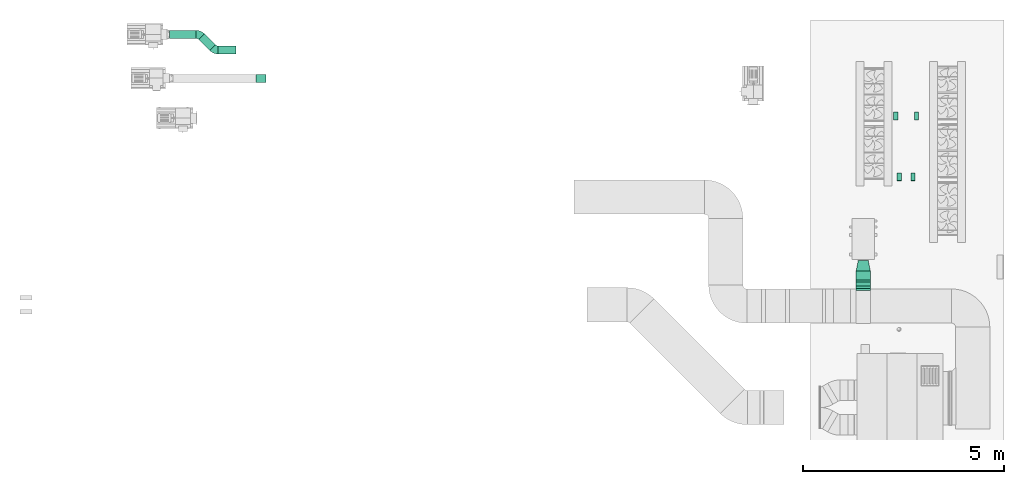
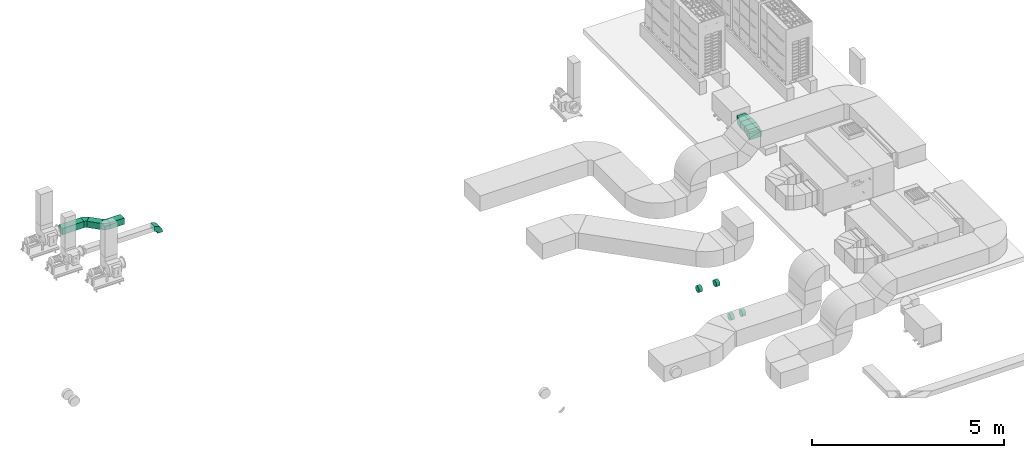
# One storey, part 6 of 10: 10 flow fittings, 5 flow segments.
"""IFC2X3 building model written with IfcOpenShell, lengths in millimetres."""

from ifc_helpers import new_model, entity, si_unit, converted_unit, derived_unit, direction, frame, frame_2d, origin, place, context, subcontext, project, spatial, polyline, circle_curve, parameter, trimmed, segment, composite_curve, rectangle, outline, extrude, faceted_brep, source, transform, mapped, material, type_object, type_shapes, element, save


model = new_model("IFC2X3")

# Units and contexts
model_context = context("Model", 3, precision=0.01, world=origin(), true_north=direction((6.123233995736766e-17, 1.0)))
body_context = subcontext(model_context, "Body", "Model", "MODEL_VIEW")
ifc_project = project(units=[si_unit("LENGTHUNIT", "METRE", prefix="MILLI"), converted_unit("PLANEANGLEUNIT", "DEGREE", entity("IfcPlaneAngleMeasure", 0.017453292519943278), si_unit("PLANEANGLEUNIT", "RADIAN"), dimensions=[0, 0, 0, 0, 0, 0, 0]), si_unit("AREAUNIT", "SQUARE_METRE"), derived_unit("THERMALTRANSMITTANCEUNIT", [(si_unit("MASSUNIT", "GRAM", prefix="KILO"), 1), (si_unit("THERMODYNAMICTEMPERATUREUNIT", "KELVIN"), -1), (si_unit("TIMEUNIT", "SECOND"), -3)])], contexts=[model_context])

# Site, building, storey
site_placement = place(None, origin())
site = spatial("IfcSite", under=ifc_project, at=site_placement, Name="Default", CompositionType="ELEMENT")
building_placement = place(site_placement, origin())
building = spatial("IfcBuilding", under=site, at=building_placement, Name="Praça Pedro II, 1301 - Centro (Sul), Teresina - PI, 64001-100", CompositionType="ELEMENT")
storey_placement = place(building_placement, frame((0.0, 0.0, 9040.0)))
storey = spatial("IfcBuildingStorey", under=building, at=storey_placement, Name="LAJE TÉCNICA", CompositionType="ELEMENT", Elevation=9040.0)

# Flow segments
duct_segment_type = type_object("IfcDuctSegmentType", Name="Duto retangular:Raios cotovelos / torneiras", PredefinedType="NOTDEFINED")
flow_segment_1_placement = place(storey_placement, origin())
element("IfcFlowSegment", 1, at=flow_segment_1_placement, inside=storey, type_object=duct_segment_type, Name="Duto retangular:Raios cotovelos / torneiras", ObjectType="Duto retangular:Raios cotovelos / torneiras", context=body_context, shape_type="SweptSolid", body=[
    extrude(rectangle(XDim=200.0000000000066, YDim=72.91306973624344, at=frame_2d((-5.400124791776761e-13, -9.379164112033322e-13), x_axis=(0.0, 1.0))), frame((36344.0706689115, -57759.1687026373, 1363.976813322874), z_axis=(1.0, 0.0, 0.0), x_axis=(0.0, 0.8660254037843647, 0.5000000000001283)), (0.0, 0.0, 1.0), 349.9999999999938),
])
flow_segment_2_placement = place(storey_placement, origin())
element("IfcFlowSegment", 2, at=flow_segment_2_placement, inside=storey, type_object=duct_segment_type, Name="Duto retangular:Raios cotovelos / torneiras", ObjectType="Duto retangular:Raios cotovelos / torneiras", context=body_context, shape_type="SweptSolid", body=[
    extrude(rectangle(XDim=225.56608795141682, YDim=349.9999999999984, at=frame_2d((0.0, -2.1600499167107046e-12), x_axis=(1.0, 0.0))), frame((36519.070668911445, -57514.813373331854, 1309.0), z_axis=(0.0, 0.0, 1.0), x_axis=(0.0, 1.0, 0.0)), (0.0, 0.0, 1.0), 200.0000000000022),
])
flow_segment_3_placement = place(storey_placement, origin())
element("IfcFlowSegment", 3, at=flow_segment_3_placement, inside=storey, type_object=duct_segment_type, Name="Duto retangular:Raios cotovelos / torneiras", ObjectType="Duto retangular:Raios cotovelos / torneiras", context=body_context, shape_type="SweptSolid", body=[
    extrude(rectangle(XDim=436.6572875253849, YDim=199.99999999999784, at=frame_2d((-2.1600499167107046e-12, -4.334310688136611e-12), x_axis=(1.0, 0.0))), frame((20699.047039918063, -51911.56108325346, 380.0), z_axis=(0.0, 0.0, 1.0), x_axis=(-1.0, 0.0, 0.0)), (0.0, 0.0, 1.0), 200.0),
])
flow_segment_4_placement = place(storey_placement, origin())
element("IfcFlowSegment", 4, at=flow_segment_4_placement, inside=storey, type_object=duct_segment_type, Name="Duto retangular:Raios cotovelos / torneiras", ObjectType="Duto retangular:Raios cotovelos / torneiras", context=body_context, shape_type="SweptSolid", body=[
    extrude(rectangle(XDim=383.02943725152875, YDim=200.0000000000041, at=frame_2d((-3.055333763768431e-12, -3.062439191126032e-12), x_axis=(1.0, 0.0))), frame((20203.875683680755, -51717.561083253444, 380.0), z_axis=(0.0, 0.0, 1.0), x_axis=(-0.7071067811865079, 0.7071067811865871, 0.0)), (0.0, 0.0, 1.0), 200.0),
])
flow_segment_5_placement = place(storey_placement, origin())
element("IfcFlowSegment", 5, at=flow_segment_5_placement, inside=storey, type_object=duct_segment_type, Name="Duto retangular:Raios cotovelos / torneiras", ObjectType="Duto retangular:Raios cotovelos / torneiras", context=body_context, shape_type="SweptSolid", body=[
    extrude(rectangle(XDim=654.1065605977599, YDim=199.99999999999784, at=frame_2d((-1.1084466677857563e-12, 4.334310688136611e-12), x_axis=(1.0, 0.0))), frame((19599.979690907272, -51523.56108325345, 380.0)), (0.0, 0.0, 1.0), 200.0),
])

# Flow fittings
ifc_material = material(Name="<Unnamed>")
duct_fitting_type_1 = type_object("IfcDuctFittingType", Name="BTS vanes:1 Splitter Vanes", PredefinedType="NOTDEFINED", material=ifc_material)
shared_shape_1 = source(origin(), body_context, "Body", "SweptSolid", [
    extrude(outline(composite_curve([segment(polyline([(-113.39745962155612, -50.0), (86.60254037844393, -50.0)]), True, "CONTINUOUS"), segment(trimmed(circle_curve(frame_2d((186.60254037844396, -50.0), x_axis=(-0.8660254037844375, 0.49999999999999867)), 100.00000000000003), [parameter(0.0)], [parameter(29.999999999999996)], True, "PARAMETER"), False, "CONTINUOUS"), segment(polyline([(100.0, 0.0), (-73.20508075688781, 100.0)]), True, "CONTINUOUS"), segment(trimmed(circle_curve(frame_2d((186.60254037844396, -50.0), x_axis=(-0.8660254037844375, 0.49999999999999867)), 300.0), [parameter(0.0)], [parameter(29.999999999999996)], True, "PARAMETER"), True, "CONTINUOUS")], self_intersect=False)), frame((-3.589838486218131, 13.397459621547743, -175.0), z_axis=(0.0, 0.0, 1.0), x_axis=(-0.49999999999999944, 0.866025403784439, 0.0)), (0.0, 0.0, 1.0), 350.0),
    extrude(outline(composite_curve([segment(polyline([(-26.353758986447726, -29.60526315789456), (10.488346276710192, -29.605263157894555)]), True, "CONTINUOUS"), segment(trimmed(circle_curve(frame_2d((110.48834627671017, -29.605263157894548), x_axis=(-0.8660254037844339, 0.5)), 99.99999999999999), [parameter(0.0)], [parameter(29.999999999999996)], True, "PARAMETER"), False, "CONTINUOUS"), segment(polyline([(23.88580589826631, 20.39473684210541), (-8.020393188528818, 38.81578947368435)]), True, "CONTINUOUS"), segment(trimmed(circle_curve(frame_2d((110.48834627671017, -29.605263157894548), x_axis=(-0.8660254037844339, 0.5)), 136.8421052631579), [parameter(0.0)], [parameter(29.999999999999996)], True, "PARAMETER"), True, "CONTINUOUS")], self_intersect=False)), frame((-23.9845753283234, 89.51165372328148, -175.0), z_axis=(0.0, 0.0, 1.0), x_axis=(-0.49999999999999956, 0.8660254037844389, 0.0)), (0.0, 0.0, 1.0), 350.0),
])
type_shapes(duct_fitting_type_1, [shared_shape_1])
for number, where, z_axis, x_axis, name in (
    (6, (36519.0706689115, -57837.151149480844, 1318.9536266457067), (1.0, 0.0, 0.0), (0.0, 1.0, 0.0), "BTS vanes:1 Splitter Vanes"),
    (7, (36519.0706689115, -57681.18625579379, 1409.0), (-1.0, 0.0, 0.0), (0.0, 0.8660254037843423, 0.500000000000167), "BTS vanes:1 Splitter Vanes"),
):
    element("IfcFlowFitting", number, at=place(storey_placement, frame(where, z_axis=z_axis, x_axis=x_axis)), inside=storey, type_object=duct_fitting_type_1, material=ifc_material, Name=name, ObjectType="BTS vanes:1 Splitter Vanes", context=body_context, shape_type="MappedRepresentation", body=[
        mapped(shared_shape_1, transform((0.0, 0.0, 0.0), scale=1.0)),
    ])
duct_fitting_type_2 = type_object("IfcDuctFittingType", Name="M_Rectangular Transition - L:250 mm (L)", PredefinedType="NOTDEFINED", material=ifc_material)
shared_shape_2 = source(origin(), body_context, "Body", "Brep", [
    faceted_brep([(250.0, -125.95000000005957, 125.94999999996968), (250.0, -125.95000000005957, -125.95000000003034), (250.0, 125.94999999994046, -125.95000000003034), (250.0, 125.94999999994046, 125.94999999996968), (0.0, -175.0, 100.0), (0.0, 175.0, 100.0), (0.0, 175.0, -100.0), (0.0, -175.0, -100.0)], [[[0, 1, 2, 3]], [[4, 5, 6, 7]], [[4, 7, 1, 0]], [[7, 6, 2, 1]], [[6, 5, 3, 2]], [[5, 4, 0, 3]]]),
])
type_shapes(duct_fitting_type_2, [shared_shape_2])
flow_fitting_1_placement = place(storey_placement, frame((36519.07066891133, -57402.03032935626, 1409.0), z_axis=(0.0, 0.0, 1.0), x_axis=(0.0, 1.0, 0.0)))
element("IfcFlowFitting", 8, at=flow_fitting_1_placement, inside=storey, type_object=duct_fitting_type_2, material=ifc_material, Name="M_Rectangular Transition - L:250 mm (L)", ObjectType="M_Rectangular Transition - L:250 mm (L)", context=body_context, shape_type="MappedRepresentation", body=[
    mapped(shared_shape_2, transform((0.0, 0.0, 0.0), scale=1.0)),
])
duct_fitting_type_3 = type_object("IfcDuctFittingType", Name="BTS vanes:1 Splitter Vanes", PredefinedType="NOTDEFINED", material=ifc_material)
shared_shape_3 = source(origin(), body_context, "Body", "SweptSolid", [
    extrude(outline(composite_curve([segment(polyline([(-162.49999999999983, -87.49999999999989), (-12.499999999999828, -87.49999999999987)]), True, "CONTINUOUS"), segment(trimmed(circle_curve(frame_2d((87.50000000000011, -87.4999999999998), x_axis=(0.0, 1.0)), 99.99999999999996), [parameter(0.0)], [parameter(89.99999999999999)], True, "PARAMETER"), False, "CONTINUOUS"), segment(polyline([(87.49999999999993, 12.500000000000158), (87.49999999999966, 162.50000000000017)]), True, "CONTINUOUS"), segment(trimmed(circle_curve(frame_2d((87.50000000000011, -87.4999999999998), x_axis=(0.0, 1.0)), 250.00000000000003), [parameter(0.0)], [parameter(89.99999999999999)], True, "PARAMETER"), True, "CONTINUOUS")], self_intersect=False)), frame((-87.49999999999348, 87.4999999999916, -100.0), z_axis=(0.0, 0.0, 1.0), x_axis=(-1.0, 0.0, 0.0)), (0.0, 0.0, 1.0), 200.0),
    extrude(outline(composite_curve([segment(polyline([(-77.63157894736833, -59.21052631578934), (-40.78947368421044, -59.21052631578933)]), True, "CONTINUOUS"), segment(trimmed(circle_curve(frame_2d((59.21052631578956, -59.21052631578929), x_axis=(0.0, 1.0)), 100.0), [parameter(0.0)], [parameter(90.00000000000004)], True, "PARAMETER"), False, "CONTINUOUS"), segment(polyline([(59.21052631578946, 40.789473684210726), (59.210526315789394, 77.63157894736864)]), True, "CONTINUOUS"), segment(trimmed(circle_curve(frame_2d((59.21052631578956, -59.21052631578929), x_axis=(0.0, 1.0)), 136.8421052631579), [parameter(0.0)], [parameter(89.99999999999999)], True, "PARAMETER"), True, "CONTINUOUS")], self_intersect=False)), frame((-115.78947368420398, 115.78947368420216, -100.0), z_axis=(0.0, 0.0, 1.0), x_axis=(-1.0, 0.0, 0.0)), (0.0, 0.0, 1.0), 200.0),
])
type_shapes(duct_fitting_type_3, [shared_shape_3])
flow_fitting_2_placement = place(storey_placement, frame((21590.507671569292, -52617.498864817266, 480.0), z_axis=(0.0, 1.0, 0.0), x_axis=(1.0, 0.0, 0.0)))
element("IfcFlowFitting", 9, at=flow_fitting_2_placement, inside=storey, type_object=duct_fitting_type_3, material=ifc_material, Name="BTS vanes:1 Splitter Vanes", ObjectType="BTS vanes:1 Splitter Vanes", context=body_context, shape_type="MappedRepresentation", body=[
    mapped(shared_shape_3, transform((0.0, 0.0, 0.0), scale=1.0)),
])
duct_fitting_type_4 = type_object("IfcDuctFittingType", Name="BTS vanes:1 Splitter Vanes", PredefinedType="NOTDEFINED", material=ifc_material)
shared_shape_4 = source(origin(), body_context, "Body", "SweptSolid", [
    extrude(outline(composite_curve([segment(polyline([(-129.28932188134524, -70.7106781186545), (70.71067811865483, -70.71067811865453)]), True, "CONTINUOUS"), segment(trimmed(circle_curve(frame_2d((170.7106781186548, -70.71067811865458), x_axis=(-0.7071067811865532, 0.7071067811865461)), 99.99999999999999), [parameter(0.0)], [parameter(44.99999999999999)], True, "PARAMETER"), False, "CONTINUOUS"), segment(polyline([(100.0, 0.0), (-41.42135623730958, 141.42135623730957)]), True, "CONTINUOUS"), segment(trimmed(circle_curve(frame_2d((170.7106781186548, -70.71067811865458), x_axis=(-0.7071067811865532, 0.7071067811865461)), 300.0), [parameter(0.0)], [parameter(44.99999999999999)], True, "PARAMETER"), True, "CONTINUOUS")], self_intersect=False)), frame((-12.132034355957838, 29.289321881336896, -100.0), z_axis=(0.0, 0.0, 1.0), x_axis=(-0.7071067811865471, 0.7071067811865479, 0.0)), (0.0, 0.0, 1.0), 200.0),
    extrude(outline(composite_curve([segment(polyline([(-35.763414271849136, -41.86816467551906), (1.078690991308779, -41.86816467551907)]), True, "CONTINUOUS"), segment(trimmed(circle_curve(frame_2d((101.07869099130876, -41.86816467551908), x_axis=(-0.707106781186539, 0.7071067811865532)), 99.99999999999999), [parameter(0.0)], [parameter(44.99999999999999)], True, "PARAMETER"), False, "CONTINUOUS"), segment(polyline([(30.36801287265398, 28.842513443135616), (4.3167104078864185, 54.89381590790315)]), True, "CONTINUOUS"), segment(trimmed(circle_curve(frame_2d((101.07869099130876, -41.86816467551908), x_axis=(-0.707106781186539, 0.7071067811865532)), 136.84210526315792), [parameter(0.0)], [parameter(44.99999999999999)], True, "PARAMETER"), True, "CONTINUOUS")], self_intersect=False)), frame((-40.97454779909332, 98.92130900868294, -100.0), z_axis=(0.0, 0.0, 1.0), x_axis=(-0.7071067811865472, 0.7071067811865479, 0.0)), (0.0, 0.0, 1.0), 200.0),
])
type_shapes(duct_fitting_type_4, [shared_shape_4])
for number, where, z_axis, x_axis, name in (
    (10, (20397.87568368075, -51911.56108325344, 480.0), (0.0, 0.0, 1.0), (0.7071067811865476, -0.7071067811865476, 0.0), "BTS vanes:1 Splitter Vanes"),
    (11, (20009.875683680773, -51523.56108325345, 480.0), (0.0, 0.0, 1.0), (-0.7071067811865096, 0.7071067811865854, 0.0), "BTS vanes:1 Splitter Vanes"),
):
    element("IfcFlowFitting", number, at=place(storey_placement, frame(where, z_axis=z_axis, x_axis=x_axis)), inside=storey, type_object=duct_fitting_type_4, material=ifc_material, Name=name, ObjectType="BTS vanes:1 Splitter Vanes", context=body_context, shape_type="MappedRepresentation", body=[
        mapped(shared_shape_4, transform((0.0, 0.0, 0.0), scale=1.0)),
    ])
duct_fitting_type_5 = type_object("IfcDuctFittingType", Name="M_Encaixe de duto redondo:Padrão", PredefinedType="NOTDEFINED", material=ifc_material)
shared_shape_5 = source(origin(), body_context, "Body", "Brep", [
    faceted_brep([(101.60000000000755, 25.88190451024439, -96.59258262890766), (101.60000000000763, 50.0, -86.60254037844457), (101.60000000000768, 70.71067811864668, -70.71067811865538), (101.60000000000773, 86.60254037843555, -50.0), (101.60000000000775, 96.59258262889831, -25.881904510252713), (101.60000000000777, 100.0, 0.0), (101.60000000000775, 96.59258262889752, 25.881904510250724), (101.60000000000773, 86.60254037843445, 50.0), (101.60000000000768, 70.71067811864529, 70.71067811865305), (101.60000000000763, 50.0, 86.60254037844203), (101.60000000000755, 25.881904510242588, 96.59258262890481), (101.6000000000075, 0.0, 100.0), (101.60000000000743, -25.881904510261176, 96.592582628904), (101.60000000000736, -50.0, 86.60254037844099), (101.60000000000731, -70.71067811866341, 70.71067811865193), (101.60000000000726, -86.60254037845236, 50.0), (101.60000000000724, -96.59258262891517, 25.881904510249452), (101.60000000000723, -100.0, 0.0), (101.60000000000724, -96.59258262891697, -25.881904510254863), (101.60000000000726, -86.60254037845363, -50.0), (101.60000000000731, -70.71067811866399, -70.71067811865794), (101.60000000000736, -50.0, -86.60254037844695), (101.60000000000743, -25.881904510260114, -96.59258262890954), (101.6000000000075, 0.0, -100.0), (0.0, 25.881904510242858, 96.59258262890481), (-6.0960000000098, 25.88190451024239, 96.59258262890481), (-6.096000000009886, 0.0, 100.0), (0.0, 0.0, 100.0), (0.0, 50.0, 86.60254037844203), (-6.096000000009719, 50.0, 86.60254037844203), (0.0, 70.7106781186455, 70.7106781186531), (-6.096000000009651, 70.71067811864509, 70.71067811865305), (0.0, 96.59258262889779, 25.881904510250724), (-6.096000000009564, 96.59258262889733, 25.881904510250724), (-6.096000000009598, 86.60254037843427, 50.0), (0.0, 86.60254037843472, 50.0), (0.0, 100.0, 0.0), (-6.0960000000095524, 100.0, 0.0), (0.0, 96.59258262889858, -25.881904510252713), (-6.096000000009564, 96.59258262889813, -25.881904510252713), (0.0, 86.60254037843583, -50.0), (-6.096000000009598, 86.60254037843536, -50.0), (0.0, 70.71067811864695, -70.71067811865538), (-6.096000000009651, 70.71067811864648, -70.71067811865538), (0.0, 25.88190451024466, -96.59258262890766), (-6.0960000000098, 25.881904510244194, -96.59258262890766), (-6.096000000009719, 50.0, -86.60254037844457), (0.0, 50.0, -86.60254037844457), (0.0, 0.0, -100.0), (-6.096000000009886, 0.0, -100.0), (0.0, -25.881904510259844, -96.59258262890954), (-6.096000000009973, -25.881904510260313, -96.59258262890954), (0.0, -50.0, -86.60254037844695), (-6.096000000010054, -50.0, -86.60254037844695), (0.0, -70.71067811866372, -70.71067811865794), (-6.096000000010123, -70.71067811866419, -70.71067811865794), (0.0, -96.5925826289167, -25.881904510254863), (-6.09600000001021, -96.59258262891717, -25.881904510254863), (-6.096000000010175, -86.60254037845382, -50.0), (0.0, -86.60254037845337, -50.0), (0.0, -100.0, 0.0), (-6.096000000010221, -100.0, 0.0), (0.0, -96.5925826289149, 25.881904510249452), (-6.09600000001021, -96.59258262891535, 25.881904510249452), (0.0, -86.60254037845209, 50.0), (-6.096000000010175, -86.60254037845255, 50.0), (0.0, -70.71067811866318, 70.7106781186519), (-6.096000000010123, -70.71067811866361, 70.71067811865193), (0.0, -25.881904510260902, 96.592582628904), (-6.096000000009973, -25.881904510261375, 96.592582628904), (-6.096000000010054, -50.0, 86.60254037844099), (0.0, -50.0, 86.60254037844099)], [[[0, 1, 2, 3, 4, 5, 6, 7, 8, 9, 10, 11, 12, 13, 14, 15, 16, 17, 18, 19, 20, 21, 22, 23]], [[24, 25, 26, 27, 11, 10]], [[28, 29, 25, 24, 10, 9]], [[9, 8, 30, 31, 29, 28]], [[32, 33, 34, 35, 7, 6]], [[36, 37, 33, 32, 6, 5]], [[8, 7, 35, 34, 31, 30]], [[38, 39, 37, 36, 5, 4]], [[40, 41, 39, 38, 4, 3]], [[3, 2, 42, 43, 41, 40]], [[44, 45, 46, 47, 1, 0]], [[48, 49, 45, 44, 0, 23]], [[2, 1, 47, 46, 43, 42]], [[50, 51, 49, 48, 23, 22]], [[52, 53, 51, 50, 22, 21]], [[21, 20, 54, 55, 53, 52]], [[56, 57, 58, 59, 19, 18]], [[60, 61, 57, 56, 18, 17]], [[20, 19, 59, 58, 55, 54]], [[62, 63, 61, 60, 17, 16]], [[64, 65, 63, 62, 16, 15]], [[15, 14, 66, 67, 65, 64]], [[68, 69, 70, 71, 13, 12]], [[27, 26, 69, 68, 12, 11]], [[14, 13, 71, 70, 67, 66]], [[49, 51, 53, 55, 58, 57, 61, 63, 65, 67, 70, 69, 26, 25, 29, 31, 34, 33, 37, 39, 41, 43, 46, 45]]]),
])
type_shapes(duct_fitting_type_5, [shared_shape_5])
for number, where, z_axis, x_axis in (
    (12, (37709.97586072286, -55065.76278861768, -6476.543252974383), (0.0, 0.0, -1.0), (1.0, 0.0, 0.0)),
    (13, (37372.47586072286, -53552.15991097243, -6476.543252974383), (0.0, 0.0, -1.0), (-1.0, 0.0, 0.0)),
):
    element("IfcFlowFitting", number, at=place(storey_placement, frame(where, z_axis=z_axis, x_axis=x_axis)), inside=storey, type_object=duct_fitting_type_5, material=ifc_material, Name="M_Encaixe de duto redondo:Padrão", ObjectType="M_Encaixe de duto redondo:Padrão", context=body_context, shape_type="MappedRepresentation", body=[
        mapped(shared_shape_5, transform((0.0, 0.0, 0.0), scale=1.0)),
    ])
duct_fitting_type_6 = type_object("IfcDuctFittingType", Name="M_Encaixe de duto redondo:Padrão", PredefinedType="NOTDEFINED", material=ifc_material)
shared_shape_6 = source(origin(), body_context, "Body", "Brep", [
    faceted_brep([(101.6000000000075, 0.0, -100.0), (101.60000000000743, 25.881904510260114, -96.59258262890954), (101.60000000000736, 50.0, -86.60254037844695), (101.60000000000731, 70.71067811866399, -70.71067811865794), (101.60000000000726, 86.60254037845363, -50.0), (101.60000000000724, 96.59258262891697, -25.881904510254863), (101.60000000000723, 100.0, 0.0), (101.60000000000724, 96.59258262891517, 25.881904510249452), (101.60000000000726, 86.60254037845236, 50.0), (101.60000000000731, 70.71067811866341, 70.71067811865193), (101.60000000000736, 50.0, 86.60254037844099), (101.60000000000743, 25.881904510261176, 96.592582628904), (101.6000000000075, 0.0, 100.0), (101.60000000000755, -25.881904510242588, 96.59258262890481), (101.60000000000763, -50.0, 86.60254037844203), (101.60000000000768, -70.71067811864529, 70.71067811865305), (101.60000000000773, -86.60254037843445, 50.0), (101.60000000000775, -96.59258262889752, 25.881904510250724), (101.60000000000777, -100.0, 0.0), (101.60000000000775, -96.59258262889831, -25.881904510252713), (101.60000000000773, -86.60254037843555, -50.0), (101.60000000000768, -70.71067811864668, -70.71067811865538), (101.60000000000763, -50.0, -86.60254037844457), (101.60000000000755, -25.88190451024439, -96.59258262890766), (0.0, 0.0, 100.0), (-6.096000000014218, 0.0, 100.0), (-6.096000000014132, -25.88190451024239, 96.59258262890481), (0.0, -25.881904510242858, 96.59258262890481), (-6.096000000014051, -50.0, 86.60254037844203), (0.0, -50.0, 86.60254037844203), (-6.096000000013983, -70.71067811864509, 70.71067811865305), (0.0, -70.7106781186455, 70.7106781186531), (0.0, -86.60254037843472, 50.0), (-6.096000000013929, -86.60254037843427, 50.0), (-6.096000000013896, -96.59258262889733, 25.881904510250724), (0.0, -96.59258262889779, 25.881904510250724), (-6.096000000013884, -100.0, 0.0), (0.0, -100.0, 0.0), (-6.096000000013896, -96.59258262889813, -25.881904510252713), (0.0, -96.59258262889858, -25.881904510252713), (-6.096000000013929, -86.60254037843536, -50.0), (0.0, -86.60254037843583, -50.0), (-6.096000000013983, -70.71067811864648, -70.71067811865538), (0.0, -70.71067811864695, -70.71067811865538), (0.0, -50.0, -86.60254037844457), (-6.096000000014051, -50.0, -86.60254037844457), (-6.096000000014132, -25.881904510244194, -96.59258262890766), (0.0, -25.88190451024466, -96.59258262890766), (-6.096000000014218, 0.0, -100.0), (0.0, 0.0, -100.0), (-6.096000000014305, 25.881904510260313, -96.59258262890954), (0.0, 25.881904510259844, -96.59258262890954), (-6.096000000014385, 50.0, -86.60254037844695), (0.0, 50.0, -86.60254037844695), (-6.096000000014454, 70.71067811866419, -70.71067811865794), (0.0, 70.71067811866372, -70.71067811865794), (0.0, 86.60254037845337, -50.0), (-6.096000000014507, 86.60254037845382, -50.0), (-6.0960000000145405, 96.59258262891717, -25.881904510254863), (0.0, 96.5925826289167, -25.881904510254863), (-6.096000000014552, 100.0, 0.0), (0.0, 100.0, 0.0), (-6.0960000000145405, 96.59258262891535, 25.881904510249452), (0.0, 96.5925826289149, 25.881904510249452), (-6.096000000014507, 86.60254037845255, 50.0), (0.0, 86.60254037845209, 50.0), (-6.096000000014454, 70.71067811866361, 70.71067811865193), (0.0, 70.71067811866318, 70.7106781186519), (0.0, 50.0, 86.60254037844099), (-6.096000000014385, 50.0, 86.60254037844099), (-6.096000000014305, 25.881904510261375, 96.592582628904), (0.0, 25.881904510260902, 96.592582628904)], [[[0, 1, 2, 3, 4, 5, 6, 7, 8, 9, 10, 11, 12, 13, 14, 15, 16, 17, 18, 19, 20, 21, 22, 23]], [[13, 12, 24, 25, 26, 27]], [[14, 13, 27, 26, 28, 29]], [[29, 28, 30, 31, 15, 14]], [[17, 16, 32, 33, 34, 35]], [[18, 17, 35, 34, 36, 37]], [[31, 30, 33, 32, 16, 15]], [[19, 18, 37, 36, 38, 39]], [[20, 19, 39, 38, 40, 41]], [[41, 40, 42, 43, 21, 20]], [[23, 22, 44, 45, 46, 47]], [[0, 23, 47, 46, 48, 49]], [[43, 42, 45, 44, 22, 21]], [[1, 0, 49, 48, 50, 51]], [[2, 1, 51, 50, 52, 53]], [[53, 52, 54, 55, 3, 2]], [[5, 4, 56, 57, 58, 59]], [[6, 5, 59, 58, 60, 61]], [[55, 54, 57, 56, 4, 3]], [[7, 6, 61, 60, 62, 63]], [[8, 7, 63, 62, 64, 65]], [[65, 64, 66, 67, 9, 8]], [[11, 10, 68, 69, 70, 71]], [[12, 11, 71, 70, 25, 24]], [[67, 66, 69, 68, 10, 9]], [[46, 45, 42, 40, 38, 36, 34, 33, 30, 28, 26, 25, 70, 69, 66, 64, 62, 60, 58, 57, 54, 52, 50, 48]]]),
])
type_shapes(duct_fitting_type_6, [shared_shape_6])
for number, where, z_axis, x_axis in (
    (14, (37459.975860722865, -55065.762788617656, -6476.543252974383), (0.0, 0.0, -1.0), (-1.0, 0.0, 0.0)),
    (15, (37797.47586072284, -53552.15991097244, -6476.543252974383), (0.0, 0.0, -1.0), (1.0, 0.0, 0.0)),
):
    element("IfcFlowFitting", number, at=place(storey_placement, frame(where, z_axis=z_axis, x_axis=x_axis)), inside=storey, type_object=duct_fitting_type_6, material=ifc_material, Name="M_Encaixe de duto redondo:Padrão", ObjectType="M_Encaixe de duto redondo:Padrão", context=body_context, shape_type="MappedRepresentation", body=[
        mapped(shared_shape_6, transform((0.0, 0.0, 0.0), scale=1.0)),
    ])

save(model, "model.ifc")
